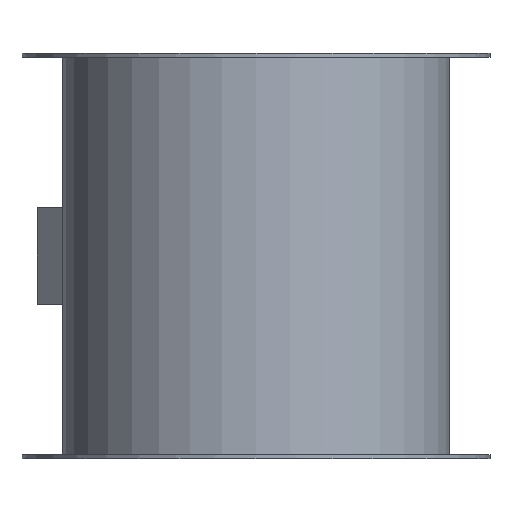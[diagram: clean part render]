
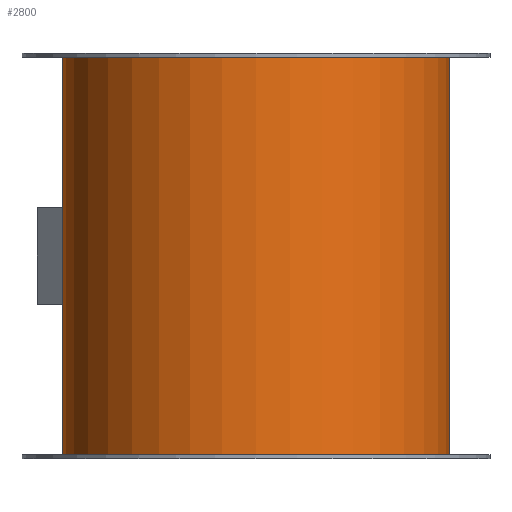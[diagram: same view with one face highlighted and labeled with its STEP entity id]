
A CAD part, front view. The second image highlights one B-rep face of the part: STEP entity #2800.
In plain terms, the highlighted cylindrical face has radius 143 mm (diameter 286 mm), a full revolution.
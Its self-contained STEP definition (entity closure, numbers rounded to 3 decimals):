
#116=FACE_BOUND('',#757,.T.);
#117=FACE_BOUND('',#758,.T.);
#185=CYLINDRICAL_SURFACE('',#2999,143.);
#216=LINE('',#4041,#346);
#217=LINE('',#4044,#347);
#346=VECTOR('',#3257,10.);
#347=VECTOR('',#3260,10.);
#578=FACE_OUTER_BOUND('',#756,.T.);
#756=EDGE_LOOP('',(#1954));
#757=EDGE_LOOP('',(#1955,#1956,#1957,#1958));
#758=EDGE_LOOP('',(#1959));
#935=CIRCLE('',#2939,143.);
#936=CIRCLE('',#2944,143.);
#971=CIRCLE('',#3000,143.);
#972=CIRCLE('',#3001,143.);
#1170=VERTEX_POINT('',#4024);
#1173=VERTEX_POINT('',#4029);
#1176=VERTEX_POINT('',#4039);
#1177=VERTEX_POINT('',#4043);
#1221=VERTEX_POINT('',#4359);
#1222=VERTEX_POINT('',#4361);
#1471=EDGE_CURVE('',#1170,#1173,#935,.T.);
#1476=EDGE_CURVE('',#1173,#1176,#216,.T.);
#1477=EDGE_CURVE('',#1177,#1170,#217,.T.);
#1479=EDGE_CURVE('',#1176,#1177,#936,.T.);
#1523=EDGE_CURVE('',#1221,#1221,#971,.F.);
#1524=EDGE_CURVE('',#1222,#1222,#972,.T.);
#1954=ORIENTED_EDGE('',*,*,#1523,.T.);
#1955=ORIENTED_EDGE('',*,*,#1471,.T.);
#1956=ORIENTED_EDGE('',*,*,#1476,.T.);
#1957=ORIENTED_EDGE('',*,*,#1479,.T.);
#1958=ORIENTED_EDGE('',*,*,#1477,.T.);
#1959=ORIENTED_EDGE('',*,*,#1524,.T.);
#2800=ADVANCED_FACE('',(#578,#116,#117),#185,.T.);
#2939=AXIS2_PLACEMENT_3D('',#4031,#3247,#3248);
#2944=AXIS2_PLACEMENT_3D('',#4047,#3264,#3265);
#2999=AXIS2_PLACEMENT_3D('',#4358,#3374,#3375);
#3000=AXIS2_PLACEMENT_3D('',#4360,#3376,#3377);
#3001=AXIS2_PLACEMENT_3D('',#4362,#3378,#3379);
#3247=DIRECTION('center_axis',(0.,0.,-1.));
#3248=DIRECTION('ref_axis',(-1.,0.,0.));
#3257=DIRECTION('',(0.,0.,1.));
#3260=DIRECTION('',(0.,0.,-1.));
#3264=DIRECTION('center_axis',(0.,0.,1.));
#3265=DIRECTION('ref_axis',(-1.,0.,0.));
#3374=DIRECTION('center_axis',(0.,0.,1.));
#3375=DIRECTION('ref_axis',(-1.,0.,0.));
#3376=DIRECTION('center_axis',(0.,0.,-1.));
#3377=DIRECTION('ref_axis',(-1.,0.,0.));
#3378=DIRECTION('center_axis',(0.,0.,-1.));
#3379=DIRECTION('ref_axis',(-1.,0.,0.));
#4024=CARTESIAN_POINT('',(-123.053,72.849,-35.5));
#4029=CARTESIAN_POINT('',(-72.849,123.053,-35.5));
#4031=CARTESIAN_POINT('Origin',(0.,0.,-35.5));
#4039=CARTESIAN_POINT('',(-72.849,123.053,35.5));
#4041=CARTESIAN_POINT('',(-72.849,123.053,0.));
#4043=CARTESIAN_POINT('',(-123.053,72.849,35.5));
#4044=CARTESIAN_POINT('',(-123.053,72.849,0.));
#4047=CARTESIAN_POINT('Origin',(0.,0.,35.5));
#4358=CARTESIAN_POINT('Origin',(0.,0.,0.));
#4359=CARTESIAN_POINT('',(143.,0.,-147.));
#4360=CARTESIAN_POINT('Origin',(0.,0.,-147.));
#4361=CARTESIAN_POINT('',(143.,0.,147.));
#4362=CARTESIAN_POINT('Origin',(0.,0.,147.));
